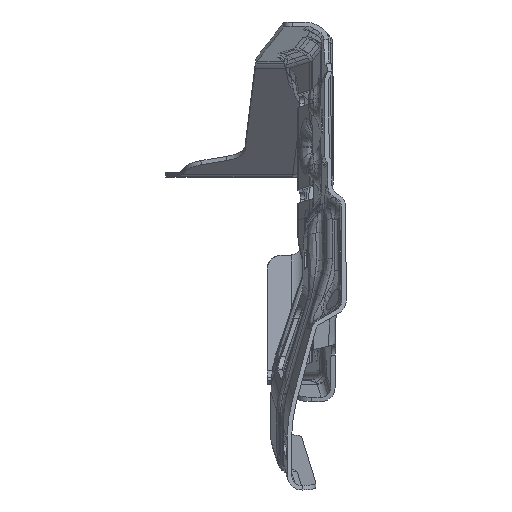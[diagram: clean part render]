
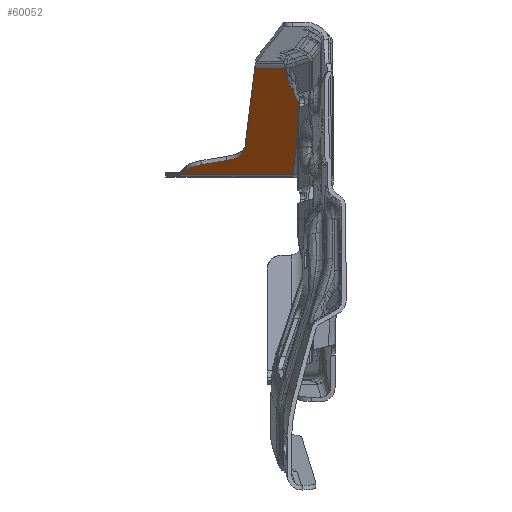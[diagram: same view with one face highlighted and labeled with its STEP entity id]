
A CAD part, top view. The second image highlights one B-rep face of the part: STEP entity #60052.
In plain terms, the highlighted planar face has unit normal (0.023, -0.913, 0.406).
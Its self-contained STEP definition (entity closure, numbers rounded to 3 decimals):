
#59967=AXIS2_PLACEMENT_3D('Plane Axis2P3D',#59964,#59965,#59966) ;
#38259=CARTESIAN_POINT('Vertex',(1581.583,837.691,968.151)) ;
#38262=CARTESIAN_POINT('Line Origine',(1594.563,837.691,967.427)) ;
#38266=CARTESIAN_POINT('Vertex',(1592.602,837.691,967.536)) ;
#53470=CARTESIAN_POINT('Vertex',(1577.886,808.125,901.849)) ;
#53473=CARTESIAN_POINT('Line Origine',(1579.735,822.908,935.)) ;
#53613=CARTESIAN_POINT('Vertex',(1595.516,829.936,949.93)) ;
#53631=CARTESIAN_POINT('Vertex',(1593.651,832.427,955.638)) ;
#53635=CARTESIAN_POINT('Control Point',(1593.651,832.427,955.638)) ;
#53636=CARTESIAN_POINT('Control Point',(1593.662,832.279,955.304)) ;
#53637=CARTESIAN_POINT('Control Point',(1593.686,832.131,954.971)) ;
#53638=CARTESIAN_POINT('Control Point',(1593.724,831.984,954.637)) ;
#53639=CARTESIAN_POINT('Control Point',(1593.826,831.69,953.97)) ;
#53640=CARTESIAN_POINT('Control Point',(1593.98,831.4,953.309)) ;
#53641=CARTESIAN_POINT('Control Point',(1594.071,831.255,952.979)) ;
#53642=CARTESIAN_POINT('Control Point',(1594.336,830.892,952.145)) ;
#53643=CARTESIAN_POINT('Control Point',(1594.687,830.54,951.334)) ;
#53644=CARTESIAN_POINT('Control Point',(1594.932,830.332,950.852)) ;
#53645=CARTESIAN_POINT('Control Point',(1595.208,830.13,950.383)) ;
#53646=CARTESIAN_POINT('Control Point',(1595.516,829.936,949.93)) ;
#59964=CARTESIAN_POINT('Axis2P3D Location',(1582.851,839.842,972.92)) ;
#59969=CARTESIAN_POINT('Line Origine',(1555.613,799.868,884.516)) ;
#59973=CARTESIAN_POINT('Vertex',(1555.009,799.271,883.208)) ;
#59975=CARTESIAN_POINT('Vertex',(1556.218,800.464,885.824)) ;
#59978=CARTESIAN_POINT('Line Origine',(1575.101,799.271,882.088)) ;
#59982=CARTESIAN_POINT('Vertex',(1595.193,799.271,880.967)) ;
#59985=CARTESIAN_POINT('Line Origine',(1596.922,813.093,911.963)) ;
#59989=CARTESIAN_POINT('Vertex',(1598.651,826.915,942.96)) ;
#59992=CARTESIAN_POINT('Line Origine',(1597.083,828.426,946.445)) ;
#59998=CARTESIAN_POINT('Control Point',(1592.602,837.691,967.536)) ;
#59999=CARTESIAN_POINT('Control Point',(1592.812,836.638,965.157)) ;
#60000=CARTESIAN_POINT('Control Point',(1593.022,835.585,962.777)) ;
#60001=CARTESIAN_POINT('Control Point',(1593.231,834.532,960.397)) ;
#60002=CARTESIAN_POINT('Control Point',(1593.441,833.48,958.017)) ;
#60003=CARTESIAN_POINT('Control Point',(1593.651,832.427,955.638)) ;
#60006=CARTESIAN_POINT('Control Point',(1577.886,808.125,901.849)) ;
#60007=CARTESIAN_POINT('Control Point',(1577.838,807.744,900.994)) ;
#60008=CARTESIAN_POINT('Control Point',(1577.683,807.363,900.145)) ;
#60009=CARTESIAN_POINT('Control Point',(1577.421,806.988,899.317)) ;
#60010=CARTESIAN_POINT('Control Point',(1576.694,806.268,897.738)) ;
#60011=CARTESIAN_POINT('Control Point',(1575.592,805.626,896.355)) ;
#60012=CARTESIAN_POINT('Control Point',(1574.956,805.331,895.727)) ;
#60013=CARTESIAN_POINT('Control Point',(1573.857,804.922,894.869)) ;
#60014=CARTESIAN_POINT('Control Point',(1572.611,804.598,894.21)) ;
#60015=CARTESIAN_POINT('Control Point',(1572.155,804.495,894.003)) ;
#60016=CARTESIAN_POINT('Control Point',(1571.684,804.403,893.823)) ;
#60017=CARTESIAN_POINT('Control Point',(1571.203,804.324,893.671)) ;
#60018=CARTESIAN_POINT('Vertex',(1571.203,804.324,893.671)) ;
#60021=CARTESIAN_POINT('Line Origine',(1566.625,803.571,892.232)) ;
#60025=CARTESIAN_POINT('Vertex',(1562.048,802.817,890.792)) ;
#60029=CARTESIAN_POINT('Control Point',(1556.218,800.464,885.824)) ;
#60030=CARTESIAN_POINT('Control Point',(1556.576,800.818,886.599)) ;
#60031=CARTESIAN_POINT('Control Point',(1557.034,801.156,887.335)) ;
#60032=CARTESIAN_POINT('Control Point',(1557.585,801.473,888.018)) ;
#60033=CARTESIAN_POINT('Control Point',(1558.716,801.991,889.119)) ;
#60034=CARTESIAN_POINT('Control Point',(1560.07,802.406,889.978)) ;
#60035=CARTESIAN_POINT('Control Point',(1560.702,802.567,890.305)) ;
#60036=CARTESIAN_POINT('Control Point',(1561.364,802.705,890.577)) ;
#60037=CARTESIAN_POINT('Control Point',(1562.048,802.817,890.792)) ;
#38263=DIRECTION('Vector Direction',(0.998,0.,-0.056)) ;
#53474=DIRECTION('Vector Direction',(-0.051,-0.407,-0.912)) ;
#59965=DIRECTION('Axis2P3D Direction',(-0.023,0.914,-0.406)) ;
#59966=DIRECTION('Axis2P3D XDirection',(-0.051,-0.407,-0.912)) ;
#59970=DIRECTION('Vector Direction',(0.388,0.382,0.839)) ;
#59979=DIRECTION('Vector Direction',(-0.998,0.,0.056)) ;
#59986=DIRECTION('Vector Direction',(0.051,0.407,0.912)) ;
#59993=DIRECTION('Vector Direction',(-0.381,0.368,0.848)) ;
#60022=DIRECTION('Vector Direction',(-0.942,-0.155,-0.296)) ;
#38264=VECTOR('Line Direction',#38263,1.) ;
#53475=VECTOR('Line Direction',#53474,1.) ;
#59971=VECTOR('Line Direction',#59970,1.) ;
#59980=VECTOR('Line Direction',#59979,1.) ;
#59987=VECTOR('Line Direction',#59986,1.) ;
#59994=VECTOR('Line Direction',#59993,1.) ;
#60023=VECTOR('Line Direction',#60022,1.) ;
#60040=ORIENTED_EDGE('',*,*,#59977,.F.) ;
#60041=ORIENTED_EDGE('',*,*,#59984,.F.) ;
#60042=ORIENTED_EDGE('',*,*,#59991,.T.) ;
#60043=ORIENTED_EDGE('',*,*,#59996,.F.) ;
#60044=ORIENTED_EDGE('',*,*,#53647,.F.) ;
#60045=ORIENTED_EDGE('',*,*,#60004,.F.) ;
#60046=ORIENTED_EDGE('',*,*,#38268,.T.) ;
#60047=ORIENTED_EDGE('',*,*,#53477,.T.) ;
#60048=ORIENTED_EDGE('',*,*,#60020,.T.) ;
#60049=ORIENTED_EDGE('',*,*,#60027,.T.) ;
#60050=ORIENTED_EDGE('',*,*,#60038,.F.) ;
#60052=ADVANCED_FACE('\X2\4E3B9A7E9A769AD8914D5EA76905976080CC603B6210\X0\\\H6\X2\9AD8914D976080CC9AA867B6603B6210\X0\\\\X2\51E04F554F53\X0\.108',(#60051),#59968,.F.) ;
#53634=B_SPLINE_CURVE_WITH_KNOTS('',5,(#53635,#53636,#53637,#53638,#53639,#53640,#53641,#53642,#53643,#53644,#53645,#53646),.UNSPECIFIED.,.F.,.U.,(6,3,3,6),(21.796,23.426,25.074,27.623),.UNSPECIFIED.) ;
#59997=B_SPLINE_CURVE_WITH_KNOTS('',5,(#59998,#59999,#60000,#60001,#60002,#60003),.UNSPECIFIED.,.F.,.U.,(6,6),(0.,18.46),.UNSPECIFIED.) ;
#60005=B_SPLINE_CURVE_WITH_KNOTS('',5,(#60006,#60007,#60008,#60009,#60010,#60011,#60012,#60013,#60014,#60015,#60016,#60017),.UNSPECIFIED.,.F.,.U.,(6,3,3,6),(0.,6.639,13.244,16.862),.UNSPECIFIED.) ;
#60028=B_SPLINE_CURVE_WITH_KNOTS('',5,(#60029,#60030,#60031,#60032,#60033,#60034,#60035,#60036,#60037),.UNSPECIFIED.,.F.,.U.,(6,3,6),(0.,6.547,11.688),.UNSPECIFIED.) ;
#38268=EDGE_CURVE('',#38267,#38260,#38265,.F.) ;
#53477=EDGE_CURVE('',#38260,#53471,#53476,.T.) ;
#53647=EDGE_CURVE('',#53632,#53614,#53634,.T.) ;
#59977=EDGE_CURVE('',#59974,#59976,#59972,.T.) ;
#59984=EDGE_CURVE('',#59983,#59974,#59981,.T.) ;
#59991=EDGE_CURVE('',#59983,#59990,#59988,.T.) ;
#59996=EDGE_CURVE('',#53614,#59990,#59995,.F.) ;
#60004=EDGE_CURVE('',#38267,#53632,#59997,.T.) ;
#60020=EDGE_CURVE('',#53471,#60019,#60005,.T.) ;
#60027=EDGE_CURVE('',#60019,#60026,#60024,.T.) ;
#60038=EDGE_CURVE('',#59976,#60026,#60028,.T.) ;
#60039=EDGE_LOOP('',(#60040,#60041,#60042,#60043,#60044,#60045,#60046,#60047,#60048,#60049,#60050)) ;
#60051=FACE_OUTER_BOUND('',#60039,.T.) ;
#38265=LINE('Line',#38262,#38264) ;
#53476=LINE('Line',#53473,#53475) ;
#59972=LINE('Line',#59969,#59971) ;
#59981=LINE('Line',#59978,#59980) ;
#59988=LINE('Line',#59985,#59987) ;
#59995=LINE('Line',#59992,#59994) ;
#60024=LINE('Line',#60021,#60023) ;
#59968=PLANE('Plane',#59967) ;
#38260=VERTEX_POINT('',#38259) ;
#38267=VERTEX_POINT('',#38266) ;
#53471=VERTEX_POINT('',#53470) ;
#53614=VERTEX_POINT('',#53613) ;
#53632=VERTEX_POINT('',#53631) ;
#59974=VERTEX_POINT('',#59973) ;
#59976=VERTEX_POINT('',#59975) ;
#59983=VERTEX_POINT('',#59982) ;
#59990=VERTEX_POINT('',#59989) ;
#60019=VERTEX_POINT('',#60018) ;
#60026=VERTEX_POINT('',#60025) ;
